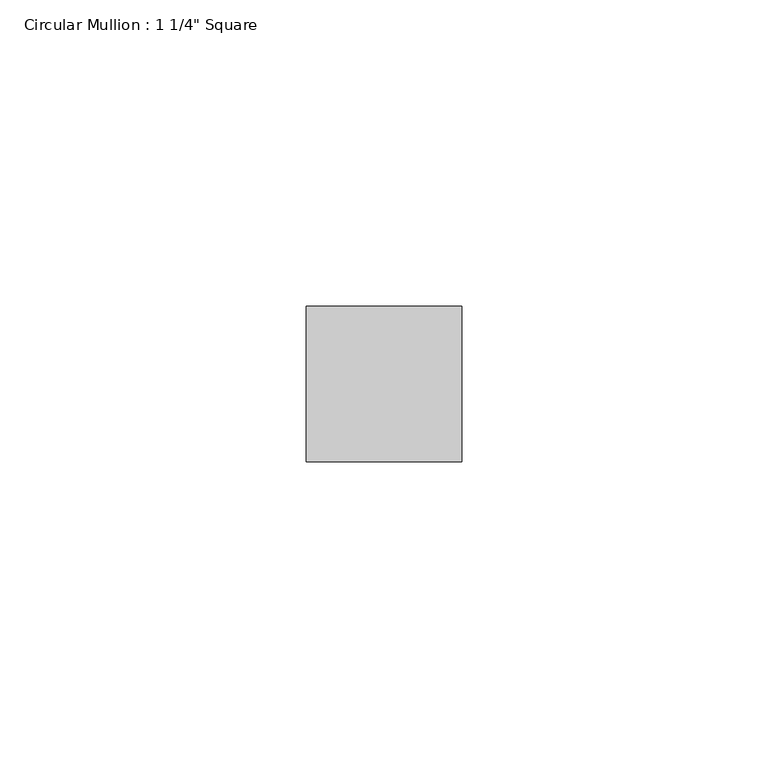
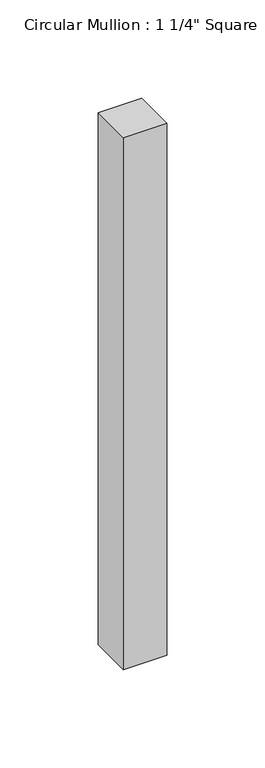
"""IFC4 building model written with IfcOpenShell, lengths in millimetres: member geometry."""

from ifc_helpers import new_model, si_unit, frame, origin, place, context, project, spatial, polyline, outline, extrude, source, transform, mapped, element, save


def member_653bb31e(model_context):
    return source(origin(), model_context, "Body", "SweptSolid", [
        extrude(outline(polyline([(12.7, 12.7), (12.7, -12.7), (-12.7, -12.7), (-12.7, 12.7), (12.7, 12.7)])), frame((0.0, 0.0, -330.2), z_axis=(0.0, 0.0, 1.0), x_axis=(1.0, 0.0, 0.0)), (0.0, 0.0, 1.0), 330.2),
    ])


if __name__ == "__main__":
    model = new_model("IFC4")
    model_context = context("Model", 3, world=origin())
    ifc_project = project(units=[si_unit("LENGTHUNIT", "METRE", prefix="MILLI")], contexts=[model_context])
    site = spatial("IfcSite", under=ifc_project)
    building = spatial("IfcBuilding", under=site)
    placement = place(None, origin())
    member_shape = member_653bb31e(model_context)
    element("IfcMember", 1, ObjectType="Circular Mullion : 1 1/4\" Square", at=placement, inside=building, context=model_context, shape_type="MappedRepresentation", body=[
        mapped(member_shape, transform((0.0, 0.0, 0.0), x_axis=(1.0, 0.0, 0.0), y_axis=(0.0, 1.0, 0.0), z_axis=(0.0, 0.0, 1.0))),
    ])
    save(model, "model.ifc")
